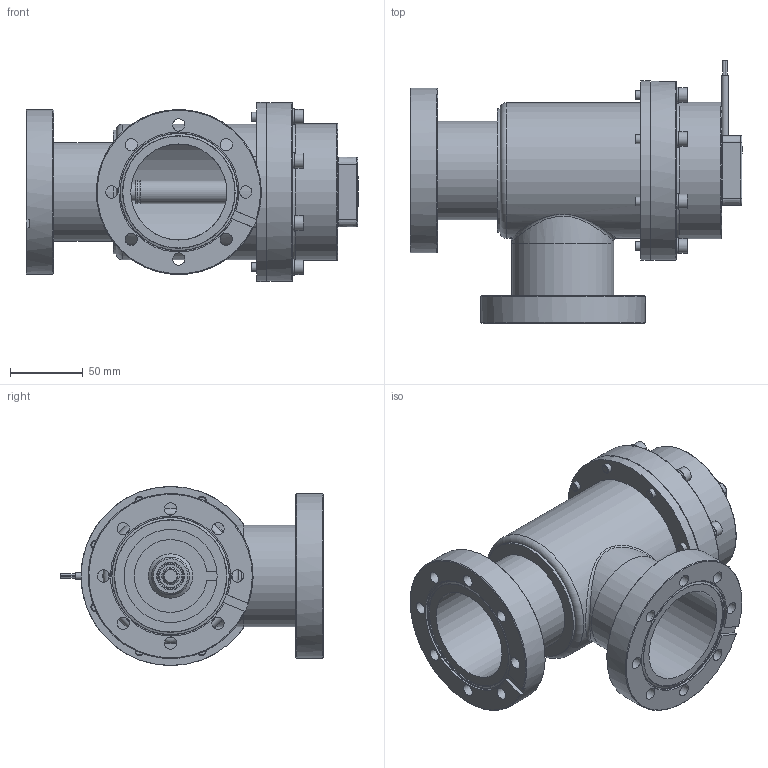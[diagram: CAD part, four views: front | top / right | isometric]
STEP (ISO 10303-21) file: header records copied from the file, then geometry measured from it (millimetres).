
FILE_DESCRIPTION(/* description */ (''),/* implementation_level */ '2;1');
FILE_NAME(/* name */ '1267817496_203.stp',/* time_stamp */ '2013-08-22T07:18:26+02:00',/* author */ (''),/* organization */ (''),/* preprocessor_version */ 'ST-DEVELOPER v11',/* originating_system */ 'SIEMENS PLM Software NX 7.5',/* authorisation */ '');
FILE_SCHEMA (('AP203_CONFIGURATION_CONTROLLED_3D_DESIGN_OF_MECHANICAL_PARTS_AND_ASSEMBLIES_MIM_LF'));
Length unit declared in the file: millimetre
Products named in the file (19): 521673_17927ID; 521665; 521644; 521643_17929ID; 206560.1; 206559.1; 239888_6.1; 233359; 236204_1.1; 265599.2; n-6134-408; 259415.2; 243267.7; N-6013-443.2; 228776.1; 521678_MODEL; 525970; 402922; 705290
Assembly tree (36 placements, depth 4):
  705290
    228776.1  x8
    N-6013-443.2  x2
    243267.7
    259415.2
    n-6134-408  x8
    265599.2
    402922
      236204_1.1  x2
      233359
      239888_6.1
    525970
      206559.1  x2
      206560.1  x2
      521678_MODEL
        521643_17929ID
        521644
        521665
        521673_17927ID
Bounding box: 228.1 x 180.57 x 123 mm (x, y, z)
Volume: 628312.1 mm3; surface area: 302755.4 mm2
Topology: 49 solids, 49 shells, 744 faces, 1731 edges, 1134 vertices
Faces by surface type: plane 412, cylinder 214, cone 81, bspline 19, torus 18
Full cylindrical faces by diameter (mm): 1.4 x8, 3 x6, 3.1 x1, 3.3 x2, 4 x3, 4.5 x2, 4.6 x2, 4.7 x2, 4.96 x8, 5 x16, 5.6 x2, 6 x16, 6.4 x8, 6.5 x8, 7 x1, 7.4 x1, 7.5 x2, 8 x1, 8.4 x16, 8.566 x1, 9 x1, 10 x8, 10.1 x1, 11 x8, 12 x1, 15.975 x3, 16.5 x2, 18.01 x1, 20.45 x1, 26 x1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
Entity records: 18686 total; most frequent: CARTESIAN_POINT 3748, DIRECTION 2488, ORIENTED_EDGE 2128, EDGE_CURVE 1064, AXIS2_PLACEMENT_3D 955, EDGE_LOOP 817, VERTEX_POINT 793, LINE 578
